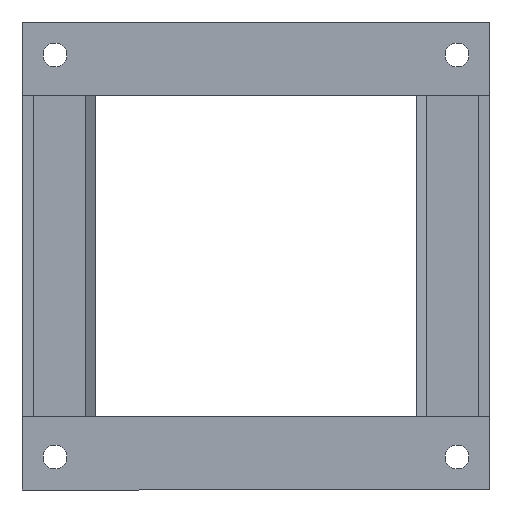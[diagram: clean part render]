
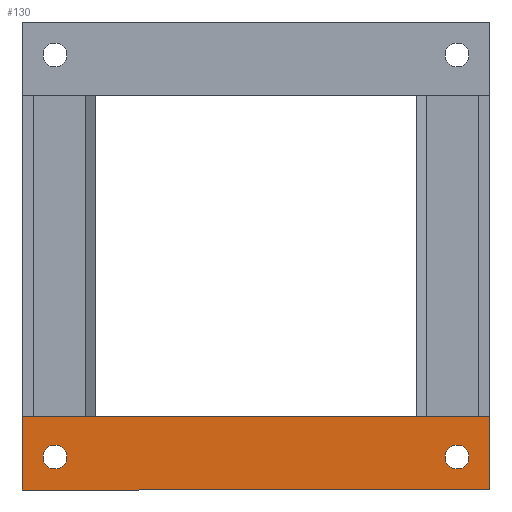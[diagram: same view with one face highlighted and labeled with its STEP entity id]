
A CAD part, front view. The second image highlights one B-rep face of the part: STEP entity #130.
In plain terms, the highlighted planar face has unit normal (0, -1, 0).
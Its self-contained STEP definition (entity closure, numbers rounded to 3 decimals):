
#75 = ORIENTED_EDGE ( 'NONE', *, *, #331, .F. ) ;
#76 = EDGE_CURVE ( 'NONE', #269, #225, #805, .T. ) ;
#104 = VERTEX_POINT ( 'NONE', #1050 ) ;
#110 = EDGE_CURVE ( 'NONE', #2019, #263, #1112, .T. ) ;
#112 = EDGE_LOOP ( 'NONE', ( #75, #1887 ) ) ;
#126 = VERTEX_POINT ( 'NONE', #1173 ) ;
#130 = ADVANCED_FACE ( 'NONE', ( #1235, #1236, #1237 ), #1238, .F. ) ;
#146 = EDGE_CURVE ( 'NONE', #126, #104, #1321, .T. ) ;
#225 = VERTEX_POINT ( 'NONE', #504 ) ;
#263 = VERTEX_POINT ( 'NONE', #609 ) ;
#269 = VERTEX_POINT ( 'NONE', #639 ) ;
#319 = EDGE_CURVE ( 'NONE', #269, #666, #861, .T. ) ;
#331 = EDGE_CURVE ( 'NONE', #263, #2019, #896, .T. ) ;
#356 = ORIENTED_EDGE ( 'NONE', *, *, #319, .T. ) ;
#395 = EDGE_CURVE ( 'NONE', #104, #126, #1117, .T. ) ;
#504 = CARTESIAN_POINT ( 'NONE',  ( -20.6, -4.2, -20.6 ) ) ;
#609 = CARTESIAN_POINT ( 'NONE',  ( 17.7, -4.2, -16.65 ) ) ;
#633 = ORIENTED_EDGE ( 'NONE', *, *, #76, .F. ) ;
#639 = CARTESIAN_POINT ( 'NONE',  ( 20.6, -4.2, -20.6 ) ) ;
#666 = VERTEX_POINT ( 'NONE', #1280 ) ;
#687 = CARTESIAN_POINT ( 'NONE',  ( -20.6, -4.2, -14.1 ) ) ;
#805 = LINE ( 'NONE', #806, #807 ) ;
#806 = CARTESIAN_POINT ( 'NONE',  ( -20.6, -4.2, -20.6 ) ) ;
#807 = VECTOR ( 'NONE', #808, 1000. ) ;
#808 = DIRECTION ( 'NONE',  ( -1., 0., 0. ) ) ;
#861 = LINE ( 'NONE', #862, #863 ) ;
#862 = CARTESIAN_POINT ( 'NONE',  ( 20.6, -4.2, 20.6 ) ) ;
#863 = VECTOR ( 'NONE', #864, 1000. ) ;
#864 = DIRECTION ( 'NONE',  ( 0., 0., 1. ) ) ;
#886 = EDGE_CURVE ( 'NONE', #1861, #666, #1404, .T. ) ;
#896 = CIRCLE ( 'NONE', #897, 1.05 ) ;
#897 = AXIS2_PLACEMENT_3D ( 'NONE', #898, #899, #900 ) ;
#898 = CARTESIAN_POINT ( 'NONE',  ( 17.7, -4.2, -17.7 ) ) ;
#899 = DIRECTION ( 'NONE',  ( 0., -1., 0. ) ) ;
#900 = DIRECTION ( 'NONE',  ( 0., 0., 1. ) ) ;
#1050 = CARTESIAN_POINT ( 'NONE',  ( -17.7, -4.2, -18.75 ) ) ;
#1112 = CIRCLE ( 'NONE', #1113, 1.05 ) ;
#1113 = AXIS2_PLACEMENT_3D ( 'NONE', #1114, #1115, #1116 ) ;
#1114 = CARTESIAN_POINT ( 'NONE',  ( 17.7, -4.2, -17.7 ) ) ;
#1115 = DIRECTION ( 'NONE',  ( 0., -1., 0. ) ) ;
#1116 = DIRECTION ( 'NONE',  ( 0., 0., 1. ) ) ;
#1117 = CIRCLE ( 'NONE', #1118, 1.05 ) ;
#1118 = AXIS2_PLACEMENT_3D ( 'NONE', #1119, #1120, #1121 ) ;
#1119 = CARTESIAN_POINT ( 'NONE',  ( -17.7, -4.2, -17.7 ) ) ;
#1120 = DIRECTION ( 'NONE',  ( 0., -1., 0. ) ) ;
#1121 = DIRECTION ( 'NONE',  ( 0., 0., 1. ) ) ;
#1152 = EDGE_CURVE ( 'NONE', #1861, #225, #1557, .T. ) ;
#1173 = CARTESIAN_POINT ( 'NONE',  ( -17.7, -4.2, -16.65 ) ) ;
#1235 = FACE_BOUND ( 'NONE', #112, .T. ) ;
#1236 = FACE_OUTER_BOUND ( 'NONE', #1867, .T. ) ;
#1237 = FACE_BOUND ( 'NONE', #1994, .T. ) ;
#1238 = PLANE ( 'NONE',  #1239 ) ;
#1239 = AXIS2_PLACEMENT_3D ( 'NONE', #1240, #1241, #1242 ) ;
#1240 = CARTESIAN_POINT ( 'NONE',  ( -20.6, -4.2, -20.6 ) ) ;
#1241 = DIRECTION ( 'NONE',  ( 0., 1., 0. ) ) ;
#1242 = DIRECTION ( 'NONE',  ( 0., 0., 1. ) ) ;
#1280 = CARTESIAN_POINT ( 'NONE',  ( 20.6, -4.2, -14.1 ) ) ;
#1321 = CIRCLE ( 'NONE', #1322, 1.05 ) ;
#1322 = AXIS2_PLACEMENT_3D ( 'NONE', #1325, #1326, #1327 ) ;
#1325 = CARTESIAN_POINT ( 'NONE',  ( -17.7, -4.2, -17.7 ) ) ;
#1326 = DIRECTION ( 'NONE',  ( 0., -1., 0. ) ) ;
#1327 = DIRECTION ( 'NONE',  ( 0., 0., 1. ) ) ;
#1404 = LINE ( 'NONE', #1405, #1406 ) ;
#1405 = CARTESIAN_POINT ( 'NONE',  ( -20.6, -4.2, -14.1 ) ) ;
#1406 = VECTOR ( 'NONE', #1407, 1000. ) ;
#1407 = DIRECTION ( 'NONE',  ( 1., 0., 0. ) ) ;
#1511 = ORIENTED_EDGE ( 'NONE', *, *, #1152, .T. ) ;
#1557 = LINE ( 'NONE', #1558, #1559 ) ;
#1558 = CARTESIAN_POINT ( 'NONE',  ( -20.6, -4.2, -14.1 ) ) ;
#1559 = VECTOR ( 'NONE', #1560, 1000. ) ;
#1560 = DIRECTION ( 'NONE',  ( 0., 0., -1. ) ) ;
#1765 = CARTESIAN_POINT ( 'NONE',  ( 17.7, -4.2, -18.75 ) ) ;
#1861 = VERTEX_POINT ( 'NONE', #687 ) ;
#1867 = EDGE_LOOP ( 'NONE', ( #1511, #633, #356, #2014 ) ) ;
#1887 = ORIENTED_EDGE ( 'NONE', *, *, #110, .F. ) ;
#1917 = ORIENTED_EDGE ( 'NONE', *, *, #395, .F. ) ;
#1954 = ORIENTED_EDGE ( 'NONE', *, *, #146, .F. ) ;
#1994 = EDGE_LOOP ( 'NONE', ( #1954, #1917 ) ) ;
#2014 = ORIENTED_EDGE ( 'NONE', *, *, #886, .F. ) ;
#2019 = VERTEX_POINT ( 'NONE', #1765 ) ;
